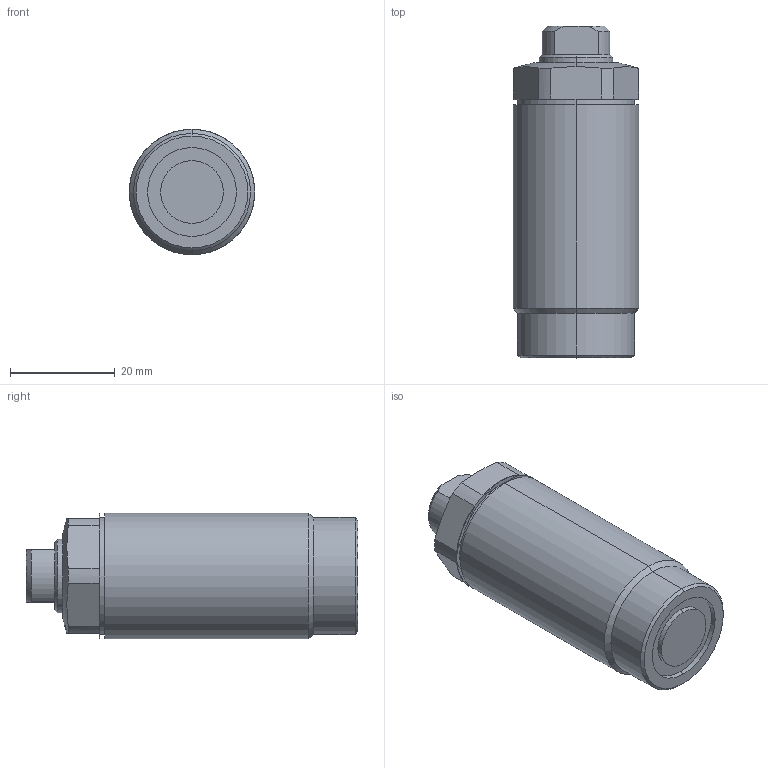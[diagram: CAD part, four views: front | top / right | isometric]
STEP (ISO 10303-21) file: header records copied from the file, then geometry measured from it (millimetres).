
FILE_DESCRIPTION (( 'STEP AP203' ), '1' );
FILE_NAME ('T03C-M242-L threaded pusher.STEP', '2022-07-09T17:36:57', ( '' ), ( '' ), 'SwSTEP 2.0', 'SolidWorks 2017', '' );
FILE_SCHEMA (( 'CONFIG_CONTROL_DESIGN' ));
Length unit declared in the file: millimetre
Products named in the file (3): T03C-M242-L part-2; T03C-M242-L threaded pusher; T03C-M242-L part-1
Assembly tree (2 placements, depth 2):
  T03C-M242-L threaded pusher
    T03C-M242-L part-1
    T03C-M242-L part-2
Bounding box: 24 x 63.5 x 24 mm (x, y, z)
Volume: 30815.3 mm3; surface area: 7571.7 mm2
Topology: 2 solids, 2 shells, 243 faces, 643 edges, 423 vertices
Faces by surface type: plane 136, bspline 74, cylinder 18, cone 15
Entity records: 11578 total; most frequent: CARTESIAN_POINT 5886, ORIENTED_EDGE 1282, DIRECTION 815, EDGE_CURVE 641, VERTEX_POINT 423, VECTOR 343, LINE 343, EDGE_LOOP 264
